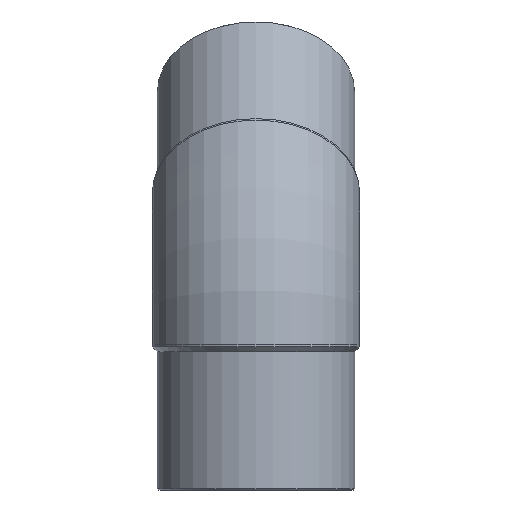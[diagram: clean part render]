
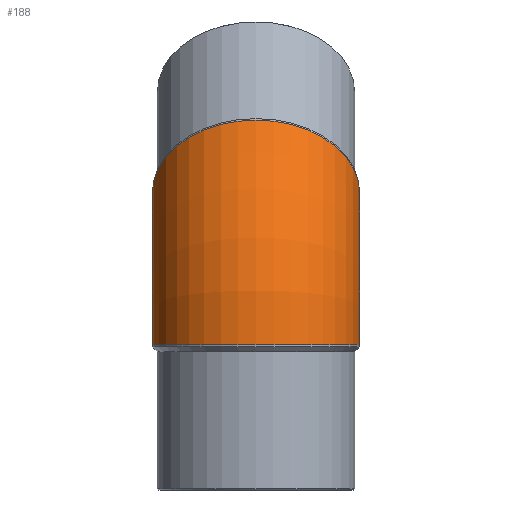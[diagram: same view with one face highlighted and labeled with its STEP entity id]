
A CAD part, left-side view. The second image highlights one B-rep face of the part: STEP entity #188.
In plain terms, the highlighted toroidal (fillet/blend) face has major radius 152.095 mm and minor radius 73.5 mm.
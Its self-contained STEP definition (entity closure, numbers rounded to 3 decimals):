
#20=TOROIDAL_SURFACE('',#225,152.095,73.5);
#53=ORIENTED_EDGE('',*,*,#87,.T.);
#54=ORIENTED_EDGE('',*,*,#86,.F.);
#86=EDGE_CURVE('',#104,#104,#118,.F.);
#87=EDGE_CURVE('',#105,#105,#119,.F.);
#104=VERTEX_POINT('',#347);
#105=VERTEX_POINT('',#350);
#118=CIRCLE('',#224,73.5);
#119=CIRCLE('',#226,73.5);
#136=EDGE_LOOP('',(#53));
#137=EDGE_LOOP('',(#54));
#163=FACE_BOUND('',#136,.T.);
#164=FACE_BOUND('',#137,.T.);
#188=ADVANCED_FACE('',(#163,#164),#20,.T.);
#224=AXIS2_PLACEMENT_3D('',#346,#270,#271);
#225=AXIS2_PLACEMENT_3D('',#348,#272,#273);
#226=AXIS2_PLACEMENT_3D('',#349,#274,#275);
#270=DIRECTION('',(-0.707,0.,-0.707));
#271=DIRECTION('',(0.707,0.,-0.707));
#272=DIRECTION('',(0.,1.,0.));
#273=DIRECTION('',(0.,0.,1.));
#274=DIRECTION('',(0.,0.,-1.));
#275=DIRECTION('',(1.,0.,0.));
#346=CARTESIAN_POINT('',(44.548,0.,44.548));
#347=CARTESIAN_POINT('',(96.52,0.,-7.425));
#348=CARTESIAN_POINT('',(152.095,0.,-63.));
#349=CARTESIAN_POINT('',(0.,0.,-63.));
#350=CARTESIAN_POINT('',(73.5,0.,-63.));
